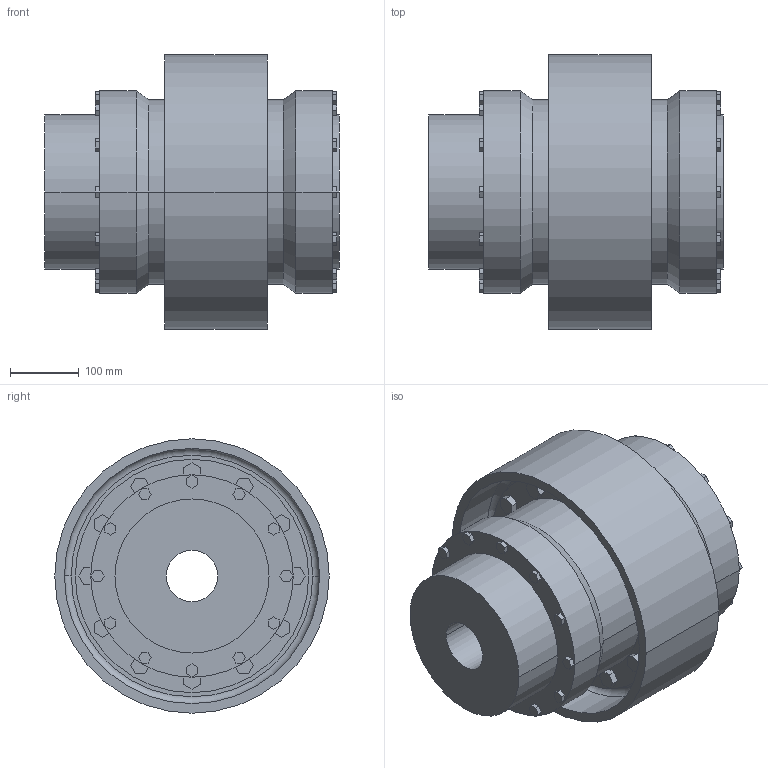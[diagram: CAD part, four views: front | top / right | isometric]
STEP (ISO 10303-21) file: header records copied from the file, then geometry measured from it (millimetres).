
FILE_DESCRIPTION((''),'2;1');
FILE_NAME('A19734900-0_ASM','2019-05-23T',('AB_Roschiwal'),('RENK AG'),'PRO/ENGINEER BY PARAMETRIC TECHNOLOGY CORPORATION, 2015440','PRO/ENGINEER BY PARAMETRIC TECHNOLOGY CORPORATION, 2015440','');
FILE_SCHEMA(('CONFIG_CONTROL_DESIGN'));
Length unit declared in the file: millimetre
Products named in the file (4): SBKD140_GEHAEUSE; SBKD140_NABE; SBKD140_BREMSSCHEIBE; A19734900-0_ASM
Assembly tree (4 placements, depth 2):
  A19734900-0_ASM
    SBKD140_GEHAEUSE
    SBKD140_NABE  x2
    SBKD140_BREMSSCHEIBE
Bounding box: 429 x 400 x 400 mm (x, y, z)
Volume: 22199358.5 mm3; surface area: 1795497 mm2
Topology: 4 solids, 4 shells, 474 faces, 1164 edges, 772 vertices
Faces by surface type: plane 370, cylinder 96, cone 4, torus 4
Entity records: 13708 total; most frequent: CARTESIAN_POINT 2366, ORIENTED_EDGE 2280, DIRECTION 2264, EDGE_CURVE 1140, VECTOR 956, LINE 956, VERTEX_POINT 756, AXIS2_PLACEMENT_3D 654
